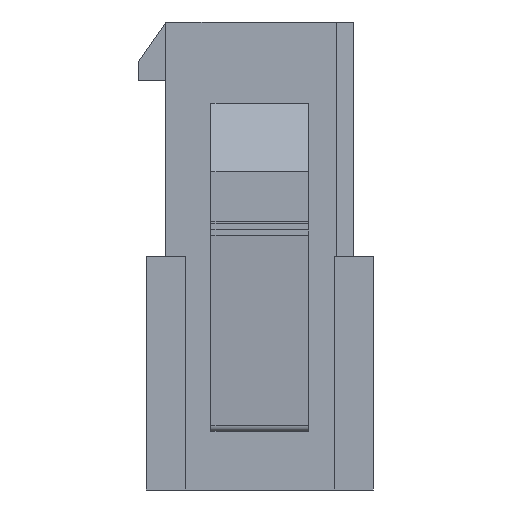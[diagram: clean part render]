
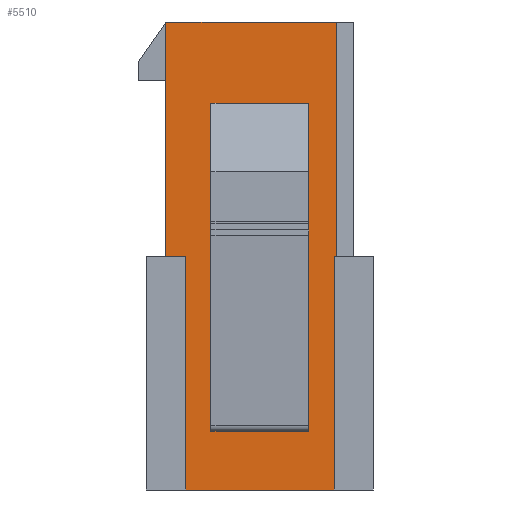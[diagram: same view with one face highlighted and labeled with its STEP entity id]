
A CAD part, left-side view. The second image highlights one B-rep face of the part: STEP entity #5510.
In plain terms, the highlighted planar face has unit normal (-1, 0, 0).
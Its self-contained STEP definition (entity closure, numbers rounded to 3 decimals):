
#445=DIRECTION('',(0.,1.,0.));
#446=VECTOR('',#445,8.7);
#447=CARTESIAN_POINT('',(-23.7,1.9,0.));
#448=LINE('',#447,#446);
#565=DIRECTION('',(0.,1.,0.));
#566=VECTOR('',#565,7.6);
#567=CARTESIAN_POINT('',(-23.7,2.,-23.9));
#568=LINE('',#567,#566);
#1419=DIRECTION('',(0.,0.,-1.));
#1420=VECTOR('',#1419,12.);
#1421=CARTESIAN_POINT('',(-23.7,10.6,0.));
#1422=LINE('',#1421,#1420);
#1491=DIRECTION('',(0.,0.,1.));
#1492=VECTOR('',#1491,1.5);
#1493=CARTESIAN_POINT('',(-23.7,3.3,-20.9));
#1494=LINE('',#1493,#1492);
#1495=DIRECTION('',(0.,1.,0.));
#1496=VECTOR('',#1495,5.);
#1497=CARTESIAN_POINT('',(-23.7,3.3,-19.4));
#1498=LINE('',#1497,#1496);
#1499=DIRECTION('',(0.,0.,1.));
#1500=VECTOR('',#1499,1.5);
#1501=CARTESIAN_POINT('',(-23.7,8.3,-20.9));
#1502=LINE('',#1501,#1500);
#1503=DIRECTION('',(0.,1.,0.));
#1504=VECTOR('',#1503,5.);
#1505=CARTESIAN_POINT('',(-23.7,3.3,-20.9));
#1506=LINE('',#1505,#1504);
#1507=DIRECTION('',(0.,0.,-1.));
#1508=VECTOR('',#1507,12.);
#1509=CARTESIAN_POINT('',(-23.7,1.9,0.));
#1510=LINE('',#1509,#1508);
#1511=DIRECTION('',(0.,-1.,0.));
#1512=VECTOR('',#1511,0.1);
#1513=CARTESIAN_POINT('',(-23.7,2.,-12.));
#1514=LINE('',#1513,#1512);
#1515=DIRECTION('',(0.,0.,-1.));
#1516=VECTOR('',#1515,11.9);
#1517=CARTESIAN_POINT('',(-23.7,2.,-12.));
#1518=LINE('',#1517,#1516);
#1519=DIRECTION('',(0.,0.,-1.));
#1520=VECTOR('',#1519,11.9);
#1521=CARTESIAN_POINT('',(-23.7,9.6,-12.));
#1522=LINE('',#1521,#1520);
#1523=DIRECTION('',(0.,-1.,0.));
#1524=VECTOR('',#1523,1.);
#1525=CARTESIAN_POINT('',(-23.7,10.6,-12.));
#1526=LINE('',#1525,#1524);
#3369=CARTESIAN_POINT('',(-23.7,2.,-12.));
#3370=CARTESIAN_POINT('',(-23.7,2.,-23.9));
#3371=VERTEX_POINT('',#3369);
#3372=VERTEX_POINT('',#3370);
#3393=CARTESIAN_POINT('',(-23.7,10.6,0.));
#3394=VERTEX_POINT('',#3393);
#3605=CARTESIAN_POINT('',(-23.7,10.6,-12.));
#3606=CARTESIAN_POINT('',(-23.7,9.6,-12.));
#3607=VERTEX_POINT('',#3605);
#3608=VERTEX_POINT('',#3606);
#3609=CARTESIAN_POINT('',(-23.7,9.6,-23.9));
#3610=VERTEX_POINT('',#3609);
#3701=CARTESIAN_POINT('',(-23.7,3.3,-20.9));
#3702=CARTESIAN_POINT('',(-23.7,3.3,-19.4));
#3703=VERTEX_POINT('',#3701);
#3704=VERTEX_POINT('',#3702);
#3705=CARTESIAN_POINT('',(-23.7,8.3,-20.9));
#3706=CARTESIAN_POINT('',(-23.7,8.3,-19.4));
#3707=VERTEX_POINT('',#3705);
#3708=VERTEX_POINT('',#3706);
#4082=CARTESIAN_POINT('',(-23.7,1.9,0.));
#4084=VERTEX_POINT('',#4082);
#4087=CARTESIAN_POINT('',(-23.7,1.9,-12.));
#4088=VERTEX_POINT('',#4087);
#5483=CARTESIAN_POINT('',(-23.7,1.,0.));
#5484=DIRECTION('',(-1.,0.,0.));
#5485=DIRECTION('',(0.,1.,0.));
#5486=AXIS2_PLACEMENT_3D('',#5483,#5484,#5485);
#5487=PLANE('',#5486);
#5488=ORIENTED_EDGE('',*,*,#5245,.T.);
#5489=ORIENTED_EDGE('',*,*,#5313,.F.);
#5491=ORIENTED_EDGE('',*,*,#5490,.T.);
#5492=ORIENTED_EDGE('',*,*,#4760,.T.);
#5494=ORIENTED_EDGE('',*,*,#5493,.F.);
#5495=ORIENTED_EDGE('',*,*,#5293,.F.);
#5496=ORIENTED_EDGE('',*,*,#5389,.F.);
#5497=ORIENTED_EDGE('',*,*,#4400,.F.);
#5498=EDGE_LOOP('',(#5488,#5489,#5491,#5492,#5494,#5495,#5496,#5497));
#5499=FACE_OUTER_BOUND('',#5498,.F.);
#5501=ORIENTED_EDGE('',*,*,#5500,.T.);
#5503=ORIENTED_EDGE('',*,*,#5502,.T.);
#5505=ORIENTED_EDGE('',*,*,#5504,.F.);
#5507=ORIENTED_EDGE('',*,*,#5506,.F.);
#5508=EDGE_LOOP('',(#5501,#5503,#5505,#5507));
#5509=FACE_BOUND('',#5508,.F.);
#5510=ADVANCED_FACE('',(#5499,#5509),#5487,.T.);
#4400=EDGE_CURVE('',#4084,#3394,#448,.T.);
#4760=EDGE_CURVE('',#3372,#3610,#568,.T.);
#5245=EDGE_CURVE('',#4084,#4088,#1510,.T.);
#5293=EDGE_CURVE('',#3607,#3608,#1526,.T.);
#5313=EDGE_CURVE('',#3371,#4088,#1514,.T.);
#5389=EDGE_CURVE('',#3394,#3607,#1422,.T.);
#5490=EDGE_CURVE('',#3371,#3372,#1518,.T.);
#5493=EDGE_CURVE('',#3608,#3610,#1522,.T.);
#5500=EDGE_CURVE('',#3703,#3704,#1494,.T.);
#5502=EDGE_CURVE('',#3704,#3708,#1498,.T.);
#5504=EDGE_CURVE('',#3707,#3708,#1502,.T.);
#5506=EDGE_CURVE('',#3703,#3707,#1506,.T.);
